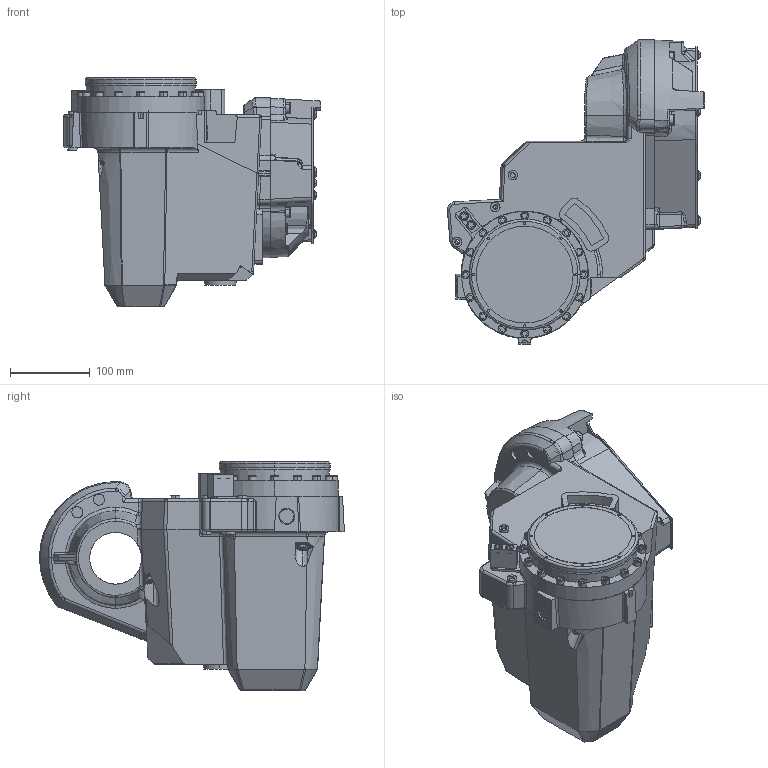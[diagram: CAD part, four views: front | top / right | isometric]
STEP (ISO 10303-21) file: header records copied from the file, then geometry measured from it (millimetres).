
FILE_DESCRIPTION (( 'STEP AP214' ), '1' );
FILE_NAME ('IRB1520ID_4_150__02_link3_step_j.STEP', '2013-04-09T05:01:32', ( 'ABB' ), ( 'ABB' ), 'SwSTEP 2.0', 'SolidWorks 2010', '' );
FILE_SCHEMA (( 'AUTOMOTIVE_DESIGN' ));
Length unit declared in the file: millimetre
Products named in the file (1): IRB1520ID_4_150__02_link3_step_j
Bounding box: 323.18 x 382.99 x 288 mm (x, y, z)
Volume: 11169744.2 mm3; surface area: 426304.2 mm2
Topology: 1 solids, 1 shells, 1103 faces, 2730 edges, 1723 vertices
Faces by surface type: plane 441, cylinder 385, bspline 113, torus 99, cone 53, sphere 12
Entity records: 51047 total; most frequent: CARTESIAN_POINT 13737, ORIENTED_EDGE 5428, DIRECTION 5041, EDGE_CURVE 2714, AXIS2_PLACEMENT_3D 1882, VERTEX_POINT 1723, VECTOR 1277, LINE 1277
